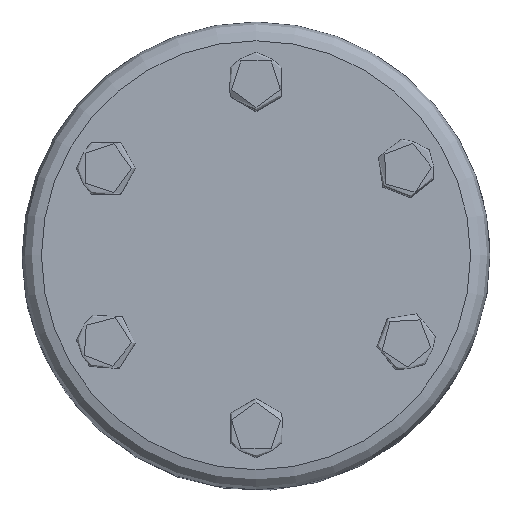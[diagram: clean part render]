
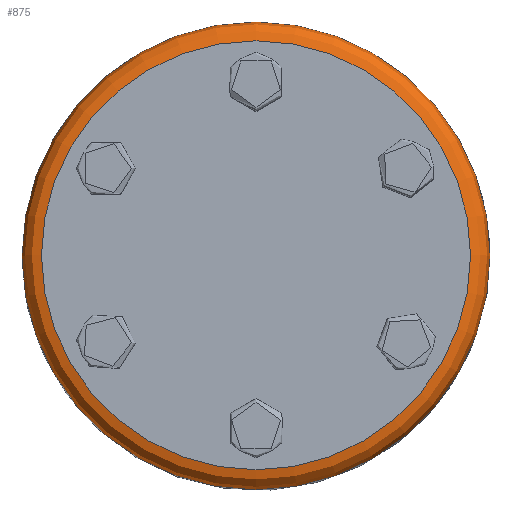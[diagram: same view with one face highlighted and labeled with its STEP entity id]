
A CAD part, top view. The second image highlights one B-rep face of the part: STEP entity #875.
In plain terms, the highlighted toroidal (fillet/blend) face has major radius 4.443 mm and minor radius 0.4 mm.
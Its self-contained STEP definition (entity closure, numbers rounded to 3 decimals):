
#22=TOROIDAL_SURFACE('',#942,4.443,0.4);
#247=FACE_OUTER_BOUND('',#305,.T.);
#305=EDGE_LOOP('',(#723,#724,#725,#726));
#324=CIRCLE('',#897,4.443);
#334=CIRCLE('',#917,4.843);
#338=CIRCLE('',#943,0.4);
#339=VERTEX_POINT('',#1171);
#402=VERTEX_POINT('',#1811);
#421=EDGE_CURVE('',#339,#339,#324,.T.);
#487=EDGE_CURVE('',#402,#402,#334,.T.);
#528=EDGE_CURVE('',#339,#402,#338,.T.);
#723=ORIENTED_EDGE('',*,*,#421,.T.);
#724=ORIENTED_EDGE('',*,*,#528,.T.);
#725=ORIENTED_EDGE('',*,*,#487,.T.);
#726=ORIENTED_EDGE('',*,*,#528,.F.);
#875=ADVANCED_FACE('',(#247),#22,.T.);
#897=AXIS2_PLACEMENT_3D('',#1172,#966,#967);
#917=AXIS2_PLACEMENT_3D('',#1812,#1042,#1043);
#942=AXIS2_PLACEMENT_3D('',#2198,#1111,#1112);
#943=AXIS2_PLACEMENT_3D('',#2199,#1113,#1114);
#966=DIRECTION('center_axis',(0.,-0.024,-1.));
#967=DIRECTION('ref_axis',(0.,-1.,0.024));
#1042=DIRECTION('center_axis',(0.,0.024,
1.));
#1043=DIRECTION('ref_axis',(0.,-1.,0.024));
#1111=DIRECTION('center_axis',(0.,0.024,
1.));
#1112=DIRECTION('ref_axis',(0.,-1.,0.024));
#1113=DIRECTION('center_axis',(-1.,0.,
0.));
#1114=DIRECTION('ref_axis',(0.,1.,-0.024));
#1171=CARTESIAN_POINT('',(371.918,-601.049,-82.323));
#1172=CARTESIAN_POINT('Origin',(371.918,-605.49,-82.215));
#1811=CARTESIAN_POINT('',(371.918,-600.659,-82.733));
#1812=CARTESIAN_POINT('Origin',(371.918,-605.5,-82.615));
#2198=CARTESIAN_POINT('Origin',(371.918,-605.5,-82.615));
#2199=CARTESIAN_POINT('Origin',(371.918,-601.059,-82.723));
